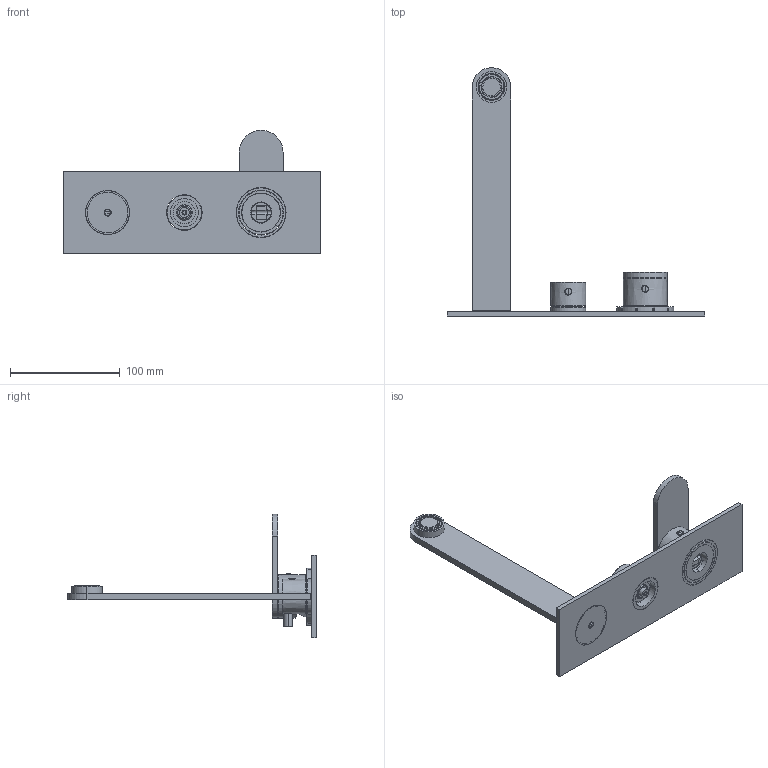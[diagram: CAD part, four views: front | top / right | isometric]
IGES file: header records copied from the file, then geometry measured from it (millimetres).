
Start section:  PTC IGES file: 79528V2.igs
Global section: file name: 79528V2.igs; native system: Creo Parametric by PTC Inc.; preprocessor: 2025443; author: carloff; organization: Unknown; date: 20261005.112907; units: millimetre
Bounding box: 235 x 226.5 x 112.5 mm (x, y, z)
Surface area: 106406.6 mm2 (no closed solid volume)
Topology: 0 solids, 0 shells, 793 faces, 4266 edges, 4254 vertices
Faces by surface type: revolution 461, bspline 332
